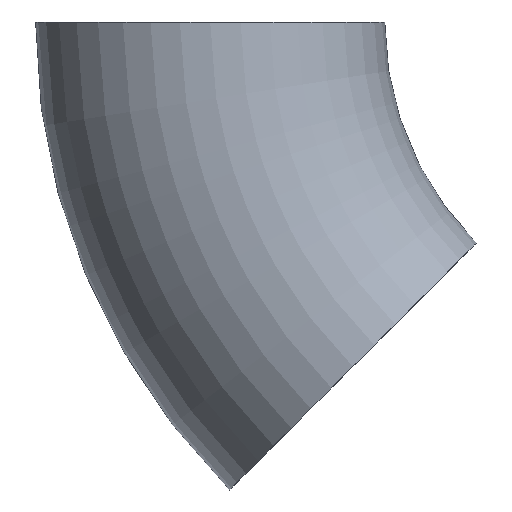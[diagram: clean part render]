
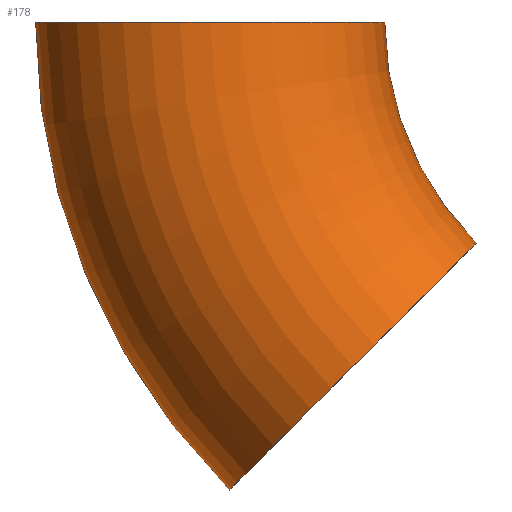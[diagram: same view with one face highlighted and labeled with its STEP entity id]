
A CAD part, front view. The second image highlights one B-rep face of the part: STEP entity #178.
In plain terms, the highlighted toroidal (fillet/blend) face has major radius 381 mm and minor radius 136.5 mm.
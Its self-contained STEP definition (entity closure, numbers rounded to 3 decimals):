
#1 = CARTESIAN_POINT ( 'NONE',  ( -365.928, 0., -365.928 ) ) ;
#8 = VERTEX_POINT ( 'NONE', #200 ) ;
#13 = CARTESIAN_POINT ( 'NONE',  ( 0., 0., 0. ) ) ;
#18 = VERTEX_POINT ( 'NONE', #31 ) ;
#19 = AXIS2_PLACEMENT_3D ( 'NONE', #66, #180, #197 ) ;
#28 = DIRECTION ( 'NONE',  ( 1., 0., 0. ) ) ;
#31 = CARTESIAN_POINT ( 'NONE',  ( -172.888, 0., -172.888 ) ) ;
#34 = DIRECTION ( 'NONE',  ( 0., 0., 1. ) ) ;
#39 = EDGE_LOOP ( 'NONE', ( #99, #48, #140, #134 ) ) ;
#41 = CIRCLE ( 'NONE', #217, 136.5 ) ;
#48 = ORIENTED_EDGE ( 'NONE', *, *, #89, .T. ) ;
#66 = CARTESIAN_POINT ( 'NONE',  ( 0., 0., 0. ) ) ;
#89 = EDGE_CURVE ( 'NONE', #230, #18, #41, .T. ) ;
#93 = EDGE_CURVE ( 'NONE', #8, #125, #215, .T. ) ;
#99 = ORIENTED_EDGE ( 'NONE', *, *, #204, .F. ) ;
#101 = AXIS2_PLACEMENT_3D ( 'NONE', #165, #143, #28 ) ;
#102 = CARTESIAN_POINT ( 'NONE',  ( 0., 0., 0. ) ) ;
#105 = CARTESIAN_POINT ( 'NONE',  ( -269.408, 0., -269.408 ) ) ;
#125 = VERTEX_POINT ( 'NONE', #171 ) ;
#130 = FACE_OUTER_BOUND ( 'NONE', #39, .T. ) ;
#134 = ORIENTED_EDGE ( 'NONE', *, *, #93, .F. ) ;
#139 = TOROIDAL_SURFACE ( 'NONE', #160, 381., 136.5 ) ;
#140 = ORIENTED_EDGE ( 'NONE', *, *, #222, .T. ) ;
#143 = DIRECTION ( 'NONE',  ( 0., 0., 1. ) ) ;
#158 = DIRECTION ( 'NONE',  ( 0., 0., 1. ) ) ;
#160 = AXIS2_PLACEMENT_3D ( 'NONE', #13, #207, #34 ) ;
#165 = CARTESIAN_POINT ( 'NONE',  ( -381., 0., 0. ) ) ;
#171 = CARTESIAN_POINT ( 'NONE',  ( -244.5, 0., 0. ) ) ;
#175 = CIRCLE ( 'NONE', #229, 517.5 ) ;
#178 = ADVANCED_FACE ( 'NONE', ( #130 ), #139, .T. ) ;
#180 = DIRECTION ( 'NONE',  ( 0., 1., 0. ) ) ;
#185 = DIRECTION ( 'NONE',  ( -0.707, 0., 0.707 ) ) ;
#197 = DIRECTION ( 'NONE',  ( 0., 0., 1. ) ) ;
#199 = CIRCLE ( 'NONE', #19, 244.5 ) ;
#200 = CARTESIAN_POINT ( 'NONE',  ( -517.5, 0., 0. ) ) ;
#204 = EDGE_CURVE ( 'NONE', #230, #8, #175, .T. ) ;
#205 = DIRECTION ( 'NONE',  ( 0.707, 0., 0.707 ) ) ;
#207 = DIRECTION ( 'NONE',  ( 0., 1., 0. ) ) ;
#215 = CIRCLE ( 'NONE', #101, 136.5 ) ;
#217 = AXIS2_PLACEMENT_3D ( 'NONE', #105, #185, #205 ) ;
#222 = EDGE_CURVE ( 'NONE', #18, #125, #199, .T. ) ;
#229 = AXIS2_PLACEMENT_3D ( 'NONE', #102, #236, #158 ) ;
#230 = VERTEX_POINT ( 'NONE', #1 ) ;
#236 = DIRECTION ( 'NONE',  ( 0., 1., 0. ) ) ;
